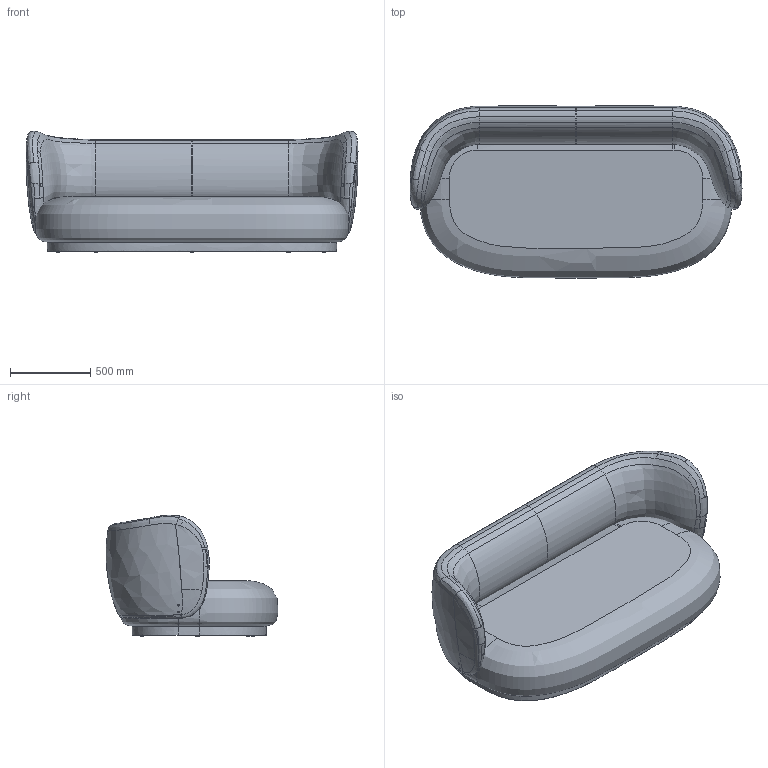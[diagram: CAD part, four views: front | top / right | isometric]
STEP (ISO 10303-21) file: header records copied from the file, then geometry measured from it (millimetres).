
FILE_DESCRIPTION(/* description */ (''),/* implementation_level */ '2;1');
FILE_NAME(/* name */ 'Rico Lounger sofa_3D',/* time_stamp */ '2024-09-03T15:06:46+02:00',/* author */ (''),/* organization */ (''),/* preprocessor_version */ 'ST-DEVELOPER v16.5',/* originating_system */ 'Rhino 7.37',/* authorisation */ '');
FILE_SCHEMA (('CONFIG_CONTROL_DESIGN'));
Length unit declared in the file: millimetre
Products named in the file (1): Document
Bounding box: 2067.17 x 1070.48 x 757.37 mm (x, y, z)
Volume: 537517732.9 mm3; surface area: 11575640.3 mm2
Topology: 10 solids, 14 shells, 584 faces, 2030 edges, 1384 vertices
Faces by surface type: bspline 484, cylinder 54, plane 46
Entity records: 216300 total; most frequent: CARTESIAN_POINT 205045, ORIENTED_EDGE 3734, EDGE_CURVE 2030, B_SPLINE_CURVE_WITH_KNOTS 1711, VERTEX_POINT 1384, EDGE_LOOP 596, ADVANCED_FACE 584, FACE_OUTER_BOUND 584
